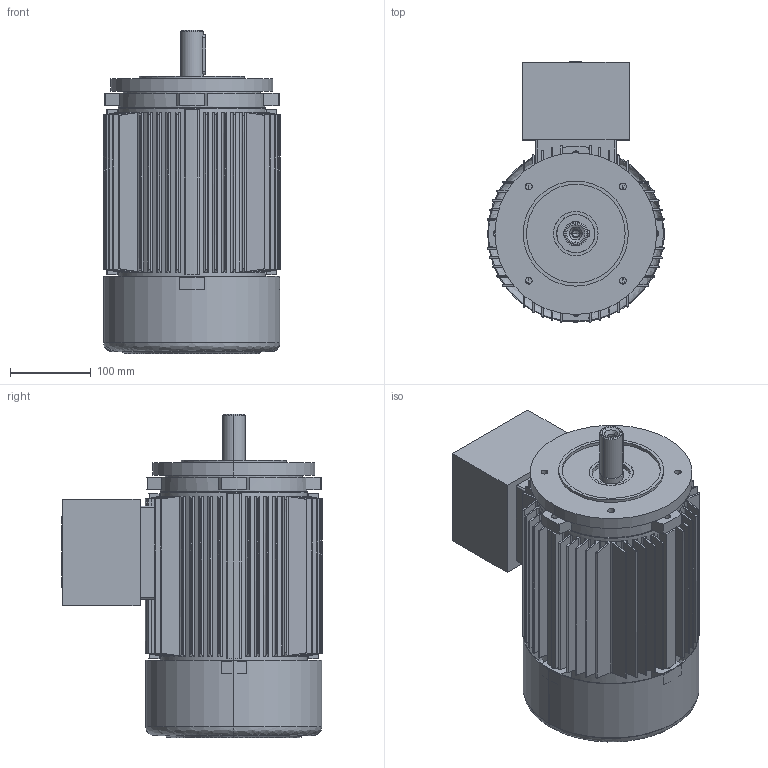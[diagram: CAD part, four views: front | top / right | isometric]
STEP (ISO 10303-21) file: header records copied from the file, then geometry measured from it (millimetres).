
FILE_DESCRIPTION (( 'STEP AP214' ), '1' );
FILE_NAME ('20.18394-D 5AT 112 B14-F165 Exd.STEP', '2018-05-08T07:45:38', ( '' ), ( '' ), 'SwSTEP 2.0', 'SolidWorks 2017', '' );
FILE_SCHEMA (( 'AUTOMOTIVE_DESIGN' ));
Length unit declared in the file: millimetre
Products named in the file (1): 20.18394-D 5AT 112 B14-F165 Exd
Bounding box: 219.52 x 322.52 x 399.8 mm (x, y, z)
Volume: 5697407.6 mm3; surface area: 1052027.5 mm2
Topology: 4 solids, 5 shells, 751 faces, 1950 edges, 1271 vertices
Faces by surface type: cylinder 336, plane 287, cone 120, bspline 8
Entity records: 32747 total; most frequent: CARTESIAN_POINT 8409, ORIENTED_EDGE 3852, DIRECTION 3523, EDGE_CURVE 1926, AXIS2_PLACEMENT_3D 1321, VERTEX_POINT 1271, VECTOR 881, LINE 881
